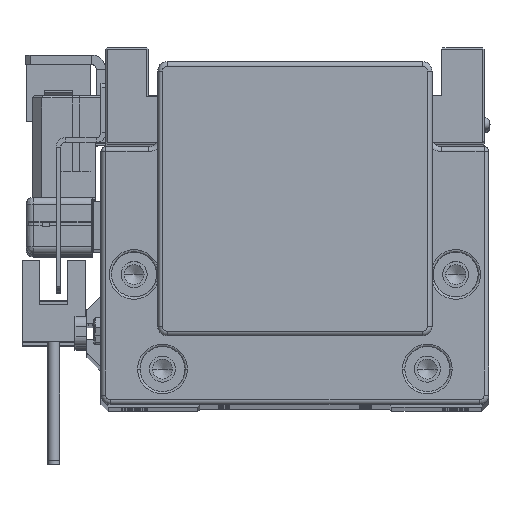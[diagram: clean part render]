
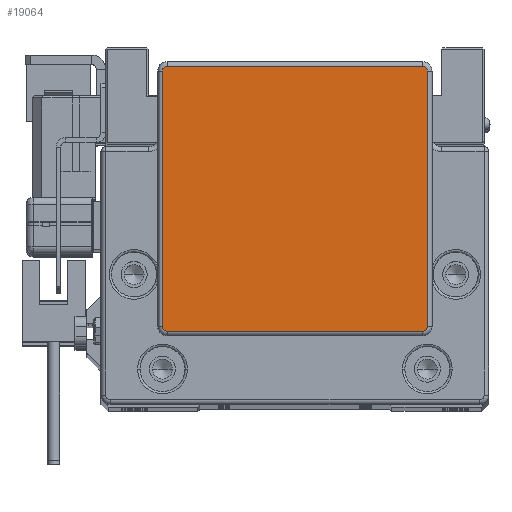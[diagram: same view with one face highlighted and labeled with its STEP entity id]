
A CAD part, top view. The second image highlights one B-rep face of the part: STEP entity #19064.
In plain terms, the highlighted planar face has unit normal (0, 0, 1).
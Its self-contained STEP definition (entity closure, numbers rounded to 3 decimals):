
#2178 = CARTESIAN_POINT ( 'NONE',  ( -28., 34.25, 17. ) ) ;
#3491 = EDGE_CURVE ( 'NONE', #26287, #14517, #19456, .T. ) ;
#3885 = AXIS2_PLACEMENT_3D ( 'NONE', #22144, #38504, #50850 ) ;
#3893 = EDGE_CURVE ( 'NONE', #38649, #40514, #44962, .T. ) ;
#4043 = LINE ( 'NONE', #7531, #28922 ) ;
#4476 = DIRECTION ( 'NONE',  ( 1., 0., 0. ) ) ;
#5453 = FACE_OUTER_BOUND ( 'NONE', #8653, .T. ) ;
#5664 = DIRECTION ( 'NONE',  ( 1., 0., 0. ) ) ;
#6455 = AXIS2_PLACEMENT_3D ( 'NONE', #22254, #43178, #38865 ) ;
#7531 = CARTESIAN_POINT ( 'NONE',  ( 28., 34.25, 17. ) ) ;
#8653 = EDGE_LOOP ( 'NONE', ( #40747, #9202, #17450, #24206, #47461, #28877, #38315, #39571 ) ) ;
#9202 = ORIENTED_EDGE ( 'NONE', *, *, #3491, .T. ) ;
#9280 = CARTESIAN_POINT ( 'NONE',  ( -27., 35.25, 17. ) ) ;
#10404 = CARTESIAN_POINT ( 'NONE',  ( 28., -19.75, 17. ) ) ;
#11777 = VECTOR ( 'NONE', #44709, 1000. ) ;
#12147 = EDGE_CURVE ( 'NONE', #28103, #38649, #39317, .T. ) ;
#13050 = VERTEX_POINT ( 'NONE', #38110 ) ;
#14044 = EDGE_CURVE ( 'NONE', #14517, #28103, #50620, .T. ) ;
#14517 = VERTEX_POINT ( 'NONE', #2178 ) ;
#14697 = EDGE_CURVE ( 'NONE', #42037, #26287, #16596, .T. ) ;
#15872 = DIRECTION ( 'NONE',  ( 0., 1., 0. ) ) ;
#16596 = LINE ( 'NONE', #24944, #44830 ) ;
#17017 = VERTEX_POINT ( 'NONE', #10404 ) ;
#17450 = ORIENTED_EDGE ( 'NONE', *, *, #14044, .T. ) ;
#18103 = PLANE ( 'NONE',  #3885 ) ;
#18296 = DIRECTION ( 'NONE',  ( 0., 0., 1. ) ) ;
#18568 = CARTESIAN_POINT ( 'NONE',  ( 27., 34.25, 17. ) ) ;
#19064 = ADVANCED_FACE ( 'NONE', ( #5453 ), #18103, .T. ) ;
#19456 = CIRCLE ( 'NONE', #52874, 1. ) ;
#21394 = CARTESIAN_POINT ( 'NONE',  ( -27., 34.25, 17. ) ) ;
#22144 = CARTESIAN_POINT ( 'NONE',  ( -27., -19.75, 17. ) ) ;
#22254 = CARTESIAN_POINT ( 'NONE',  ( 27., -19.75, 17. ) ) ;
#24206 = ORIENTED_EDGE ( 'NONE', *, *, #12147, .T. ) ;
#24566 = CARTESIAN_POINT ( 'NONE',  ( 27., 35.25, 17. ) ) ;
#24944 = CARTESIAN_POINT ( 'NONE',  ( -27., 35.25, 17. ) ) ;
#25661 = CARTESIAN_POINT ( 'NONE',  ( -28., -19.75, 17. ) ) ;
#25967 = EDGE_CURVE ( 'NONE', #40514, #17017, #42524, .T. ) ;
#26287 = VERTEX_POINT ( 'NONE', #9280 ) ;
#28103 = VERTEX_POINT ( 'NONE', #52631 ) ;
#28877 = ORIENTED_EDGE ( 'NONE', *, *, #25967, .T. ) ;
#28922 = VECTOR ( 'NONE', #15872, 1000. ) ;
#31605 = AXIS2_PLACEMENT_3D ( 'NONE', #41026, #36990, #4476 ) ;
#32327 = CARTESIAN_POINT ( 'NONE',  ( 27., -20.75, 17. ) ) ;
#32900 = CARTESIAN_POINT ( 'NONE',  ( -27., -20.75, 17. ) ) ;
#36493 = EDGE_CURVE ( 'NONE', #13050, #42037, #45731, .T. ) ;
#36990 = DIRECTION ( 'NONE',  ( 0., 0., 1. ) ) ;
#37481 = DIRECTION ( 'NONE',  ( 1., 0., 0. ) ) ;
#38046 = DIRECTION ( 'NONE',  ( -1., 0., 0. ) ) ;
#38110 = CARTESIAN_POINT ( 'NONE',  ( 28., 34.25, 17. ) ) ;
#38315 = ORIENTED_EDGE ( 'NONE', *, *, #52390, .T. ) ;
#38504 = DIRECTION ( 'NONE',  ( 0., 0., 1. ) ) ;
#38649 = VERTEX_POINT ( 'NONE', #32900 ) ;
#38865 = DIRECTION ( 'NONE',  ( 1., 0., 0. ) ) ;
#39317 = CIRCLE ( 'NONE', #31605, 1. ) ;
#39571 = ORIENTED_EDGE ( 'NONE', *, *, #36493, .T. ) ;
#40514 = VERTEX_POINT ( 'NONE', #50823 ) ;
#40747 = ORIENTED_EDGE ( 'NONE', *, *, #14697, .T. ) ;
#41026 = CARTESIAN_POINT ( 'NONE',  ( -27., -19.75, 17. ) ) ;
#42037 = VERTEX_POINT ( 'NONE', #24566 ) ;
#42054 = DIRECTION ( 'NONE',  ( 0., 0., 1. ) ) ;
#42314 = AXIS2_PLACEMENT_3D ( 'NONE', #18568, #18296, #5664 ) ;
#42524 = CIRCLE ( 'NONE', #6455, 1. ) ;
#43089 = DIRECTION ( 'NONE',  ( 0., -1., 0. ) ) ;
#43178 = DIRECTION ( 'NONE',  ( 0., 0., 1. ) ) ;
#44709 = DIRECTION ( 'NONE',  ( 1., 0., 0. ) ) ;
#44830 = VECTOR ( 'NONE', #38046, 1000. ) ;
#44962 = LINE ( 'NONE', #32327, #11777 ) ;
#45731 = CIRCLE ( 'NONE', #42314, 1. ) ;
#47461 = ORIENTED_EDGE ( 'NONE', *, *, #3893, .T. ) ;
#50620 = LINE ( 'NONE', #25661, #50794 ) ;
#50794 = VECTOR ( 'NONE', #43089, 1000. ) ;
#50823 = CARTESIAN_POINT ( 'NONE',  ( 27., -20.75, 17. ) ) ;
#50850 = DIRECTION ( 'NONE',  ( 1., 0., 0. ) ) ;
#52390 = EDGE_CURVE ( 'NONE', #17017, #13050, #4043, .T. ) ;
#52631 = CARTESIAN_POINT ( 'NONE',  ( -28., -19.75, 17. ) ) ;
#52874 = AXIS2_PLACEMENT_3D ( 'NONE', #21394, #42054, #37481 ) ;
